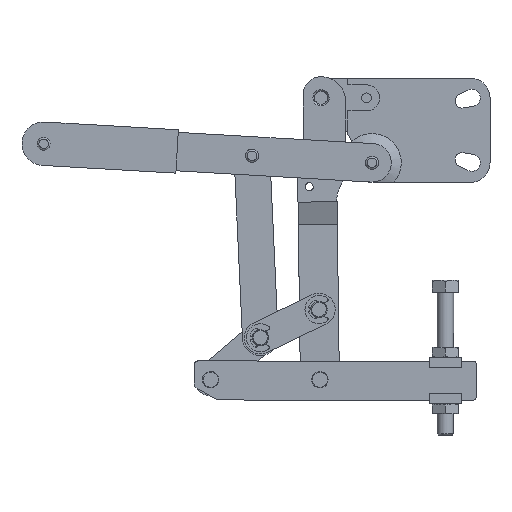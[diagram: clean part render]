
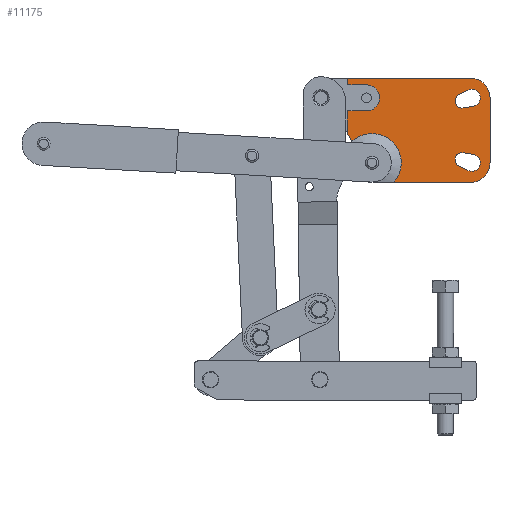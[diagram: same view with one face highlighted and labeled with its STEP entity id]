
A CAD part, left-side view. The second image highlights one B-rep face of the part: STEP entity #11175.
In plain terms, the highlighted planar face has unit normal (-1, 0, 0).
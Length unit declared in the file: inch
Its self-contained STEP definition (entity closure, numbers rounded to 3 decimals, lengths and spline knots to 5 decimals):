
#10472=CARTESIAN_POINT('',(1.1762,0.88174,0.0));
#10473=VERTEX_POINT('',#10472);
#10487=CARTESIAN_POINT('',(1.1762,1.69296,0.77846));
#10488=VERTEX_POINT('',#10487);
#10489=CARTESIAN_POINT('',(1.1762,1.301,0.375));
#10490=DIRECTION('',(1.0,0.0,0.0));
#10491=DIRECTION('',(0.0,-0.956,0.295));
#10492=AXIS2_PLACEMENT_3D('',#10489,#10490,#10491);
#10493=CIRCLE('',#10492,0.5625);
#10494=EDGE_CURVE('',#10488,#10473,#10493,.T.);
#10794=CARTESIAN_POINT('',(1.1762,1.781,1.359));
#10795=VERTEX_POINT('',#10794);
#10802=CARTESIAN_POINT('',(1.1762,1.765,1.375));
#10803=VERTEX_POINT('',#10802);
#10804=CARTESIAN_POINT('',(1.1762,1.765,1.359));
#10805=DIRECTION('',(-1.0,0.0,0.0));
#10806=DIRECTION('',(0.0,0.707,0.707));
#10807=AXIS2_PLACEMENT_3D('',#10804,#10805,#10806);
#10808=CIRCLE('',#10807,0.016);
#10809=EDGE_CURVE('',#10803,#10795,#10808,.T.);
#10836=CARTESIAN_POINT('',(1.1762,1.765,1.875));
#10837=VERTEX_POINT('',#10836);
#10844=CARTESIAN_POINT('',(1.1762,1.781,1.891));
#10845=VERTEX_POINT('',#10844);
#10846=CARTESIAN_POINT('',(1.1762,1.765,1.891));
#10847=DIRECTION('',(-1.0,0.0,0.0));
#10848=DIRECTION('',(0.0,0.707,-0.707));
#10849=AXIS2_PLACEMENT_3D('',#10846,#10847,#10848);
#10850=CIRCLE('',#10849,0.016);
#10851=EDGE_CURVE('',#10845,#10837,#10850,.T.);
#10878=CARTESIAN_POINT('',(1.1762,-0.64416,1.46326));
#10879=VERTEX_POINT('',#10878);
#10886=CARTESIAN_POINT('',(1.1762,-0.54122,1.77044));
#10887=VERTEX_POINT('',#10886);
#10888=CARTESIAN_POINT('',(1.1762,-0.617,1.625));
#10889=DIRECTION('',(1.0,0.0,0.0));
#10890=DIRECTION('',(0.0,0.166,0.986));
#10891=AXIS2_PLACEMENT_3D('',#10888,#10889,#10890);
#10892=CIRCLE('',#10891,0.164);
#10893=EDGE_CURVE('',#10887,#10879,#10892,.T.);
#10920=CARTESIAN_POINT('',(1.1762,-0.54122,0.22956));
#10921=VERTEX_POINT('',#10920);
#10928=CARTESIAN_POINT('',(1.1762,-0.64416,0.53674));
#10929=VERTEX_POINT('',#10928);
#10930=CARTESIAN_POINT('',(1.1762,-0.617,0.375));
#10931=DIRECTION('',(1.0,0.0,0.0));
#10932=DIRECTION('',(0.0,-0.462,0.887));
#10933=AXIS2_PLACEMENT_3D('',#10930,#10931,#10932);
#10934=CIRCLE('',#10933,0.164);
#10935=EDGE_CURVE('',#10929,#10921,#10934,.T.);
#10951=CARTESIAN_POINT('',(1.1762,-0.968,0.375));
#10952=VERTEX_POINT('',#10951);
#10953=CARTESIAN_POINT('',(1.1762,-0.593,0.0));
#10954=VERTEX_POINT('',#10953);
#10955=CARTESIAN_POINT('',(1.1762,-0.593,0.375));
#10956=DIRECTION('',(1.0,0.0,0.0));
#10957=DIRECTION('',(0.0,-0.707,-0.707));
#10958=AXIS2_PLACEMENT_3D('',#10955,#10956,#10957);
#10959=CIRCLE('',#10958,0.375);
#10960=EDGE_CURVE('',#10952,#10954,#10959,.T.);
#10993=CARTESIAN_POINT('',(1.1762,-0.593,2.0));
#10994=VERTEX_POINT('',#10993);
#10995=CARTESIAN_POINT('',(1.1762,-0.968,1.625));
#10996=VERTEX_POINT('',#10995);
#10997=CARTESIAN_POINT('',(1.1762,-0.593,1.625));
#10998=DIRECTION('',(1.0,0.0,0.0));
#10999=DIRECTION('',(0.0,-0.707,0.707));
#11000=AXIS2_PLACEMENT_3D('',#10997,#10998,#10999);
#11001=CIRCLE('',#11000,0.375);
#11002=EDGE_CURVE('',#10994,#10996,#11001,.T.);
#11036=CARTESIAN_POINT('',(1.1762,-0.968,0.375));
#11037=DIRECTION('',(0.0,0.0,1.0));
#11038=VECTOR('',#11037,1.25);
#11039=LINE('',#11036,#11038);
#11040=EDGE_CURVE('',#10952,#10996,#11039,.T.);
#11052=CARTESIAN_POINT('',(1.1762,0.2745,0.0));
#11053=DIRECTION('',(-1.0,0.0,0.0));
#11054=DIRECTION('',(0.0,0.0,1.0));
#11055=AXIS2_PLACEMENT_3D('',#11052,#11053,#11054);
#11056=PLANE('',#11055);
#11057=ORIENTED_EDGE('',*,*,#11002,.F.);
#11058=CARTESIAN_POINT('',(1.1762,1.781,2.0));
#11059=VERTEX_POINT('',#11058);
#11060=CARTESIAN_POINT('',(1.1762,-0.593,2.0));
#11061=DIRECTION('',(0.0,1.0,0.0));
#11062=VECTOR('',#11061,2.374);
#11063=LINE('',#11060,#11062);
#11064=EDGE_CURVE('',#10994,#11059,#11063,.T.);
#11065=ORIENTED_EDGE('',*,*,#11064,.T.);
#11066=CARTESIAN_POINT('',(1.1762,1.781,1.891));
#11067=DIRECTION('',(0.0,0.0,1.0));
#11068=VECTOR('',#11067,0.109);
#11069=LINE('',#11066,#11068);
#11070=EDGE_CURVE('',#10845,#11059,#11069,.T.);
#11071=ORIENTED_EDGE('',*,*,#11070,.F.);
#11072=ORIENTED_EDGE('',*,*,#10851,.T.);
#11073=CARTESIAN_POINT('',(1.1762,1.406,1.875));
#11074=VERTEX_POINT('',#11073);
#11075=CARTESIAN_POINT('',(1.1762,1.765,1.875));
#11076=DIRECTION('',(0.0,-1.0,0.0));
#11077=VECTOR('',#11076,0.359);
#11078=LINE('',#11075,#11077);
#11079=EDGE_CURVE('',#10837,#11074,#11078,.T.);
#11080=ORIENTED_EDGE('',*,*,#11079,.T.);
#11081=CARTESIAN_POINT('',(1.1762,1.406,1.375));
#11082=VERTEX_POINT('',#11081);
#11083=CARTESIAN_POINT('',(1.1762,1.406,1.625));
#11084=DIRECTION('',(1.0,0.0,0.0));
#11085=DIRECTION('',(0.0,0.0,1.0));
#11086=AXIS2_PLACEMENT_3D('',#11083,#11084,#11085);
#11087=CIRCLE('',#11086,0.25);
#11088=EDGE_CURVE('',#11074,#11082,#11087,.T.);
#11089=ORIENTED_EDGE('',*,*,#11088,.T.);
#11090=CARTESIAN_POINT('',(1.1762,1.406,1.375));
#11091=DIRECTION('',(0.0,1.0,0.0));
#11092=VECTOR('',#11091,0.359);
#11093=LINE('',#11090,#11092);
#11094=EDGE_CURVE('',#11082,#10803,#11093,.T.);
#11095=ORIENTED_EDGE('',*,*,#11094,.T.);
#11096=ORIENTED_EDGE('',*,*,#10809,.T.);
#11097=CARTESIAN_POINT('',(1.1762,1.781,0.9559));
#11098=VERTEX_POINT('',#11097);
#11099=CARTESIAN_POINT('',(1.1762,1.781,0.9559));
#11100=DIRECTION('',(0.0,0.0,1.0));
#11101=VECTOR('',#11100,0.4031);
#11102=LINE('',#11099,#11101);
#11103=EDGE_CURVE('',#11098,#10795,#11102,.T.);
#11104=ORIENTED_EDGE('',*,*,#11103,.F.);
#11105=CARTESIAN_POINT('',(1.1762,2.176,0.64935));
#11106=DIRECTION('',(1.0,0.0,0.0));
#11107=DIRECTION('',(0.0,-0.423,0.906));
#11108=AXIS2_PLACEMENT_3D('',#11105,#11106,#11107);
#11109=CIRCLE('',#11108,0.5);
#11110=EDGE_CURVE('',#11098,#10488,#11109,.T.);
#11111=ORIENTED_EDGE('',*,*,#11110,.T.);
#11112=ORIENTED_EDGE('',*,*,#10494,.T.);
#11113=CARTESIAN_POINT('',(1.1762,0.88174,0.0));
#11114=DIRECTION('',(0.0,-1.0,0.0));
#11115=VECTOR('',#11114,1.47474);
#11116=LINE('',#11113,#11115);
#11117=EDGE_CURVE('',#10473,#10954,#11116,.T.);
#11118=ORIENTED_EDGE('',*,*,#11117,.T.);
#11119=ORIENTED_EDGE('',*,*,#10960,.F.);
#11120=ORIENTED_EDGE('',*,*,#11040,.T.);
#11121=EDGE_LOOP('',(#11057,#11065,#11071,#11072,#11080,#11089,#11095,#11096,#11104,#11111,#11112,#11118,#11119,#11120));
#11122=FACE_OUTER_BOUND('',#11121,.T.);
#11123=ORIENTED_EDGE('',*,*,#10935,.T.);
#11124=CARTESIAN_POINT('',(1.1762,-0.36754,0.32005));
#11125=VERTEX_POINT('',#11124);
#11126=CARTESIAN_POINT('',(1.1762,-0.54122,0.22956));
#11127=DIRECTION('',(0.,0.887,0.462));
#11128=VECTOR('',#11127,0.19584);
#11129=LINE('',#11126,#11128);
#11130=EDGE_CURVE('',#10921,#11125,#11129,.T.);
#11131=ORIENTED_EDGE('',*,*,#11130,.T.);
#11132=CARTESIAN_POINT('',(1.1762,-0.45102,0.56916));
#11133=VERTEX_POINT('',#11132);
#11134=CARTESIAN_POINT('',(1.1762,-0.429,0.438));
#11135=DIRECTION('',(1.0,0.0,0.0));
#11136=DIRECTION('',(0.0,0.166,-0.986));
#11137=AXIS2_PLACEMENT_3D('',#11134,#11135,#11136);
#11138=CIRCLE('',#11137,0.133);
#11139=EDGE_CURVE('',#11125,#11133,#11138,.T.);
#11140=ORIENTED_EDGE('',*,*,#11139,.T.);
#11141=CARTESIAN_POINT('',(1.1762,-0.45102,0.56916));
#11142=DIRECTION('',(0.,-0.986,-0.166));
#11143=VECTOR('',#11142,0.19584);
#11144=LINE('',#11141,#11143);
#11145=EDGE_CURVE('',#11133,#10929,#11144,.T.);
#11146=ORIENTED_EDGE('',*,*,#11145,.T.);
#11147=EDGE_LOOP('',(#11123,#11131,#11140,#11146));
#11148=FACE_BOUND('',#11147,.T.);
#11149=ORIENTED_EDGE('',*,*,#10893,.T.);
#11150=CARTESIAN_POINT('',(1.1762,-0.45102,1.43084));
#11151=VERTEX_POINT('',#11150);
#11152=CARTESIAN_POINT('',(1.1762,-0.64416,1.46326));
#11153=DIRECTION('',(0.,0.986,-0.166));
#11154=VECTOR('',#11153,0.19584);
#11155=LINE('',#11152,#11154);
#11156=EDGE_CURVE('',#10879,#11151,#11155,.T.);
#11157=ORIENTED_EDGE('',*,*,#11156,.T.);
#11158=CARTESIAN_POINT('',(1.1762,-0.36754,1.67995));
#11159=VERTEX_POINT('',#11158);
#11160=CARTESIAN_POINT('',(1.1762,-0.429,1.562));
#11161=DIRECTION('',(1.0,0.0,0.0));
#11162=DIRECTION('',(0.0,-0.462,-0.887));
#11163=AXIS2_PLACEMENT_3D('',#11160,#11161,#11162);
#11164=CIRCLE('',#11163,0.133);
#11165=EDGE_CURVE('',#11151,#11159,#11164,.T.);
#11166=ORIENTED_EDGE('',*,*,#11165,.T.);
#11167=CARTESIAN_POINT('',(1.1762,-0.36754,1.67995));
#11168=DIRECTION('',(0.,-0.887,0.462));
#11169=VECTOR('',#11168,0.19584);
#11170=LINE('',#11167,#11169);
#11171=EDGE_CURVE('',#11159,#10887,#11170,.T.);
#11172=ORIENTED_EDGE('',*,*,#11171,.T.);
#11173=EDGE_LOOP('',(#11149,#11157,#11166,#11172));
#11174=FACE_BOUND('',#11173,.T.);
#11175=ADVANCED_FACE('',(#11122,#11148,#11174),#11056,.T.);
